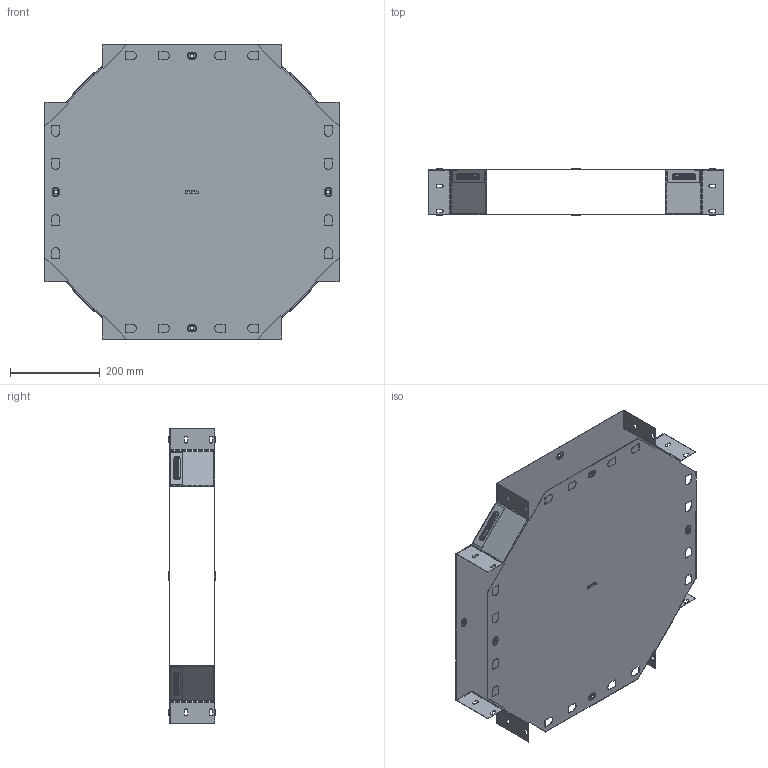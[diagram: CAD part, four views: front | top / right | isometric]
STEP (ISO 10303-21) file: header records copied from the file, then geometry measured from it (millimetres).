
FILE_DESCRIPTION (( 'STEP AP214' ), '1' );
FILE_NAME ('x10040008_捘.STEP', '2019-06-10T07:53:18', ( '砐錪賧瘔蠈錪 Windows' ), ( '' ), 'SwSTEP 2.0', 'SolidWorks 2018', '' );
FILE_SCHEMA (( 'AUTOMOTIVE_DESIGN' ));
Length unit declared in the file: millimetre
Products named in the file (1): x10040008_捘
Bounding box: 655.01 x 103.8 x 655.01 mm (x, y, z)
Volume: 661014 mm3; surface area: 1660519.9 mm2
Topology: 2 solids, 2 shells, 1112 faces, 3384 edges, 2208 vertices
Faces by surface type: plane 598, cylinder 368, torus 128, bspline 18
Entity records: 39063 total; most frequent: CARTESIAN_POINT 7663, ORIENTED_EDGE 6768, DIRECTION 6466, EDGE_CURVE 3384, LINE 2420, VECTOR 2420, VERTEX_POINT 2208, AXIS2_PLACEMENT_3D 2023
